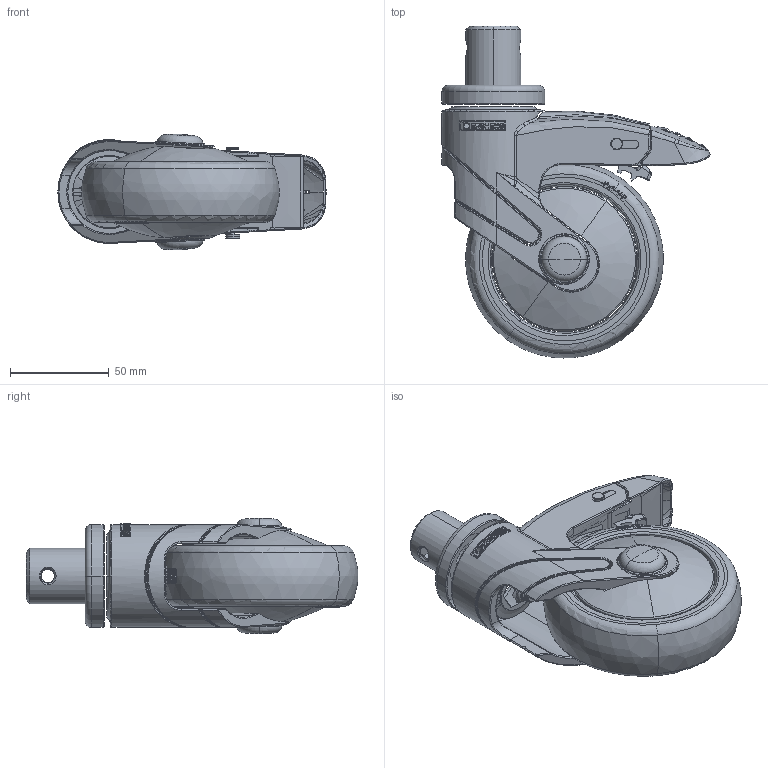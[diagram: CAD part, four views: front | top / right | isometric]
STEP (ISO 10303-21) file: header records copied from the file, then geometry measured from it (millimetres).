
FILE_DESCRIPTION((''),'2;1');
FILE_NAME('PRT0007','2025-08-18T11:15:14',('Administrator'),(''),'CREO PARAMETRIC BY PTC INC, 2022124','CREO PARAMETRIC BY PTC INC, 2022124','');
FILE_SCHEMA(('AUTOMOTIVE_DESIGN { 1 0 10303 214 1 1 1 1 }'));
Products named in the file (1): PRT0007
Bounding box: 135.67 x 167.99 x 58.65 mm (x, y, z)
Surface area: 58752.9 mm2 (no closed solid volume)
Topology: 0 solids, 75 shells, 503 faces, 2694 edges, 2179 vertices
Faces by surface type: bspline 197, cylinder 117, torus 85, plane 83, cone 15, sphere 4, extrusion 2
Entity records: 48277 total; most frequent: CARTESIAN_POINT 27027, ORIENTED_EDGE 3470, DIRECTION 2827, EDGE_CURVE 2684, VERTEX_POINT 2179, B_SPLINE_CURVE_WITH_KNOTS 1267, AXIS2_PLACEMENT_3D 1089, CIRCLE 775
